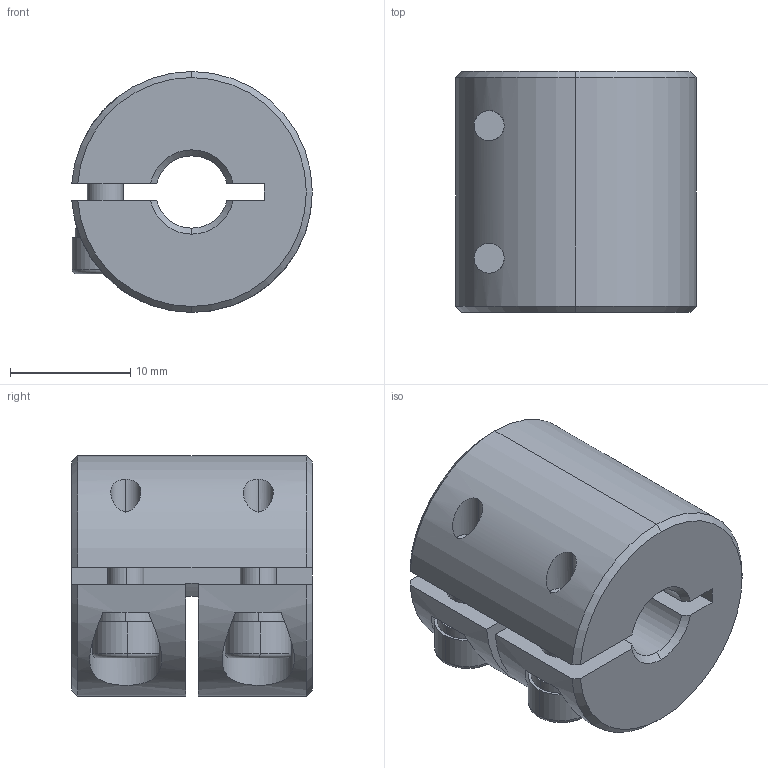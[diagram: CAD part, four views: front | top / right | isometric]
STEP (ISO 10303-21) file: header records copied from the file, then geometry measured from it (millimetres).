
FILE_DESCRIPTION (( 'STEP AP203' ), '1' );
FILE_NAME ('LL-B-D20L20-6-7.STEP', '2021-11-03T05:25:45', ( '' ), ( '' ), 'SwSTEP 2.0', 'SolidWorks 2018', '' );
FILE_SCHEMA (( 'CONFIG_CONTROL_DESIGN' ));
Length unit declared in the file: millimetre
Products named in the file (1): LL-B-D20L20-6-7
Bounding box: 19.98 x 20 x 20 mm (x, y, z)
Volume: 5125 mm3; surface area: 3124.3 mm2
Topology: 1 solids, 1 shells, 115 faces, 298 edges, 187 vertices
Faces by surface type: plane 53, cylinder 42, cone 16, torus 4
Entity records: 3764 total; most frequent: CARTESIAN_POINT 831, DIRECTION 625, ORIENTED_EDGE 588, EDGE_CURVE 294, AXIS2_PLACEMENT_3D 241, VERTEX_POINT 187, VECTOR 143, LINE 143
